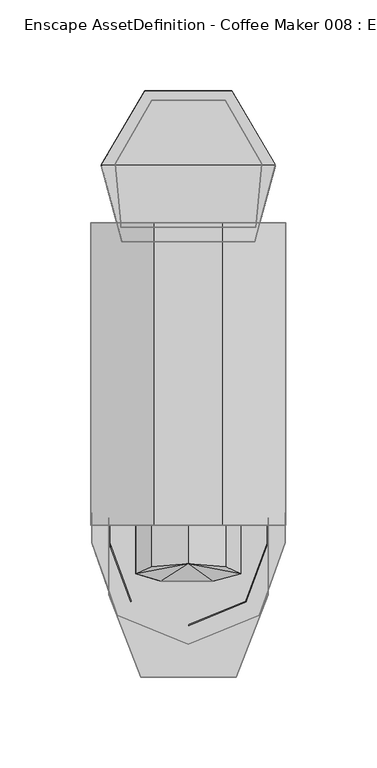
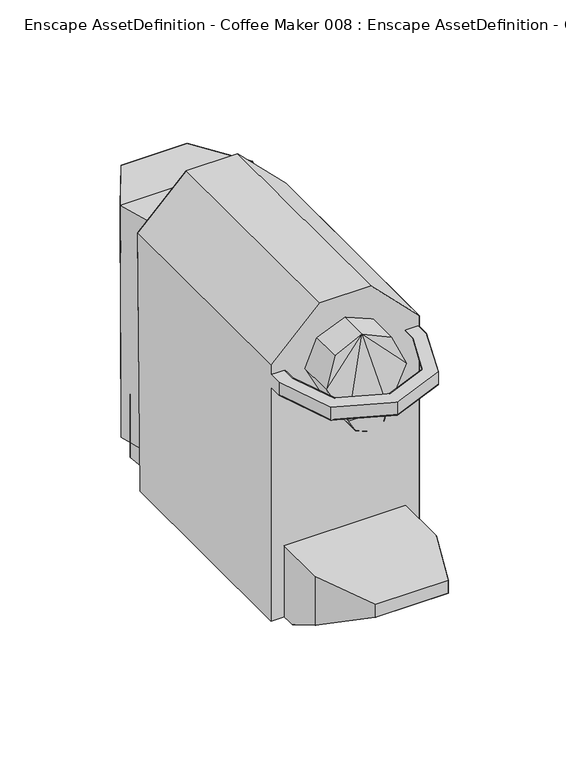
"""IFC4 building model written with IfcOpenShell, lengths in millimetres: geographic element geometry, Enscape AssetDefinition - Coffee Maker 008 : Enscape AssetDefinition - Coffee Maker 008."""

from ifc_helpers import new_model, si_unit, origin, place, context, project, spatial, triangles, source, transform, mapped, element, save


def enscape_assetdefinition_coffee_maker_008_enscape_c59bbcd4(model_context):
    return source(origin(), model_context, "Body", "Tessellation", [
        triangles([(-37.2600735, 90.3917664, -0.112668), (-20.3035436, 160.3692447, -0.112668), (40.2991935, 125.3800286, -0.112668), (37.0531912, 90.3917664, -0.112668), (-37.2600735, 90.3917664, 19.9286323), (37.0531912, 90.3917664, 19.9286323), (-40.5051039, 125.3800286, -0.112668), (20.0976332, 160.3692447, -0.112668), (-40.5051039, 125.3800286, 19.9286323), (-20.3035436, 160.3692447, 19.9286323), (20.0976332, 160.3692447, 19.9286323), (40.2991935, 125.3800286, 19.9286323), (36.5539575, 82.4826652, 18.5435935), (47.82561, 123.9911054, 18.5435935), (-48.0324924, 123.9911054, 18.5435935), (-36.7608376, 82.4826652, 18.5435935), (-36.7608376, 82.4826652, 196.3219738), (-24.0682075, 162.5555938, 18.5435935), (23.8613274, 162.5555938, 18.5435935), (-24.0682075, 165.4985646, 193.126493), (-48.0324924, 124.8837017, 195.4284237), (36.5539575, 82.4826652, 196.3219738), (23.8613274, 165.4985646, 193.126493), (47.82561, 124.8837017, 195.4284237), (-53.884429, -73.9490337, -0.0165117), (-53.884429, 92.866579, 196.0471178), (-53.884429, 89.9012622, -0.0165117), (53.5483621, 89.9012622, -0.0165117), (53.5483621, -73.9490337, -0.0165117), (53.5483621, -73.9490337, 196.0471178), (-18.803894, 92.866579, 231.1286247), (-53.884429, -73.9490337, 196.0471178), (18.467834, 92.866579, 231.1286247), (53.5483621, 92.866579, 196.0471178), (18.467834, -73.9490337, 231.1286247), (-18.803894, -73.9490337, 231.1286247), (-44.052203, -112.0686863, 16.7467328), (-26.3545914, -157.5379858, 44.3231894), (-26.3545914, -157.5379858, 54.2797355), (26.148681, -157.5379858, 54.2797355), (26.148681, -157.5379858, 44.3231894), (43.8453206, -84.2426141, 0.3719986), (43.8453206, -112.0686863, 16.7467328), (43.8453206, -112.0686863, 54.2797355), (43.8453206, -69.7307864, -0.331205), (-44.052203, -84.2426141, 0.3719986), (-44.052203, -69.7307864, -0.331205), (-44.052203, -112.0686863, 54.2797355), (-44.052203, -69.7307864, 54.2797355), (43.8453206, -69.7307864, 54.2797355), (38.9539768, -123.3014945, 188.3303287), (38.9539768, -123.3014945, 178.4301335), (53.16471, -83.3354475, 178.4301335), (31.3760872, -115.7245678, 188.3303287), (-0.1029552, -139.479059, 178.4301335), (-0.1029552, -139.479059, 188.3303287), (-0.1029552, -128.7629798, 188.3303287), (-39.1598872, -123.3014945, 188.3303287), (-31.5819976, -115.7245678, 188.3303287), (-39.1598872, -123.3014945, 178.4301335), (-53.4094716, -83.366532, 188.3303287), (-43.5121742, -83.6073967, 188.3303287), (-53.4094716, -66.9160327, 178.4301335), (-43.5121742, -67.1569019, 188.3303287), (-53.4094716, -66.9160327, 188.3303287), (-53.4094716, -83.366532, 178.4301335), (43.2674126, -83.6394532, 188.3303287), (53.16471, -83.3354475, 188.3303287), (53.16471, -66.8839807, 178.4301335), (53.16471, -66.8839807, 188.3303287), (43.2674126, -67.1879865, 188.3303287), (20.3802763, -69.0402081, 205.0207343), (28.8653393, -69.0402081, 184.5375006), (13.1811801, -104.6277434, 157.9954433), (-0.1029552, -69.0402081, 213.5058087), (20.3802763, -96.6040416, 205.0207343), (28.8653393, -100.6115187, 184.5375006), (-20.5861844, -96.6040416, 205.0207343), (-0.1029552, -95.0606856, 213.5058087), (-29.0712497, -100.6115187, 184.5375006), (-20.5861844, -69.0402081, 205.0207343), (-29.0712497, -69.0402081, 184.5375006), (-15.4374537, -104.6277434, 157.9954433), (-15.4374537, -69.0402081, 157.9954433), (-10.3450558, -69.0402081, 149.0548735), (-10.3450558, -104.6277434, 149.0548735), (-0.1029552, -104.6277434, 144.8132992), (-0.1029552, -69.0402081, 144.8132992), (10.1391454, -104.6277434, 149.0548735), (10.1391454, -69.0402081, 149.0548735), (13.1811801, -69.0402081, 157.9954433)], [[90, 91, 74], [74, 89, 90], [74, 87, 89], [87, 88, 90], [90, 89, 87], [86, 85, 88], [88, 87, 86], [84, 85, 86], [83, 86, 87], [86, 83, 84], [74, 83, 87], [80, 82, 84], [84, 83, 80], [81, 82, 80], [80, 78, 81], [75, 81, 78], [83, 74, 79], [80, 83, 79], [78, 80, 79], [78, 79, 75], [74, 77, 79], [77, 76, 79], [79, 76, 72], [72, 75, 79], [74, 91, 73], [73, 77, 74], [76, 77, 73], [73, 72, 76], [69, 53, 67], [67, 71, 69], [70, 71, 67], [69, 70, 68], [68, 53, 69], [67, 68, 70], [65, 63, 66], [63, 64, 62], [62, 66, 63], [66, 61, 65], [64, 65, 61], [61, 62, 64], [58, 61, 66], [60, 66, 62], [66, 60, 58], [62, 59, 60], [59, 62, 61], [61, 58, 59], [57, 59, 58], [56, 58, 60], [58, 56, 57], [59, 57, 55], [55, 60, 59], [60, 55, 56], [52, 55, 57], [52, 53, 68], [57, 54, 52], [54, 57, 56], [54, 67, 53], [53, 52, 54], [51, 56, 55], [55, 52, 51], [56, 51, 54], [68, 51, 52], [67, 54, 51], [51, 68, 67], [50, 49, 48], [37, 48, 49], [37, 49, 46], [49, 47, 46], [42, 46, 47], [47, 45, 42], [37, 46, 42], [48, 44, 50], [44, 45, 50], [44, 42, 45], [44, 48, 39], [39, 48, 37], [39, 40, 44], [44, 40, 41], [42, 43, 37], [44, 43, 42], [41, 43, 44], [40, 39, 38], [38, 41, 40], [37, 38, 39], [43, 41, 38], [38, 37, 43], [33, 31, 36], [36, 35, 33], [34, 33, 35], [31, 33, 34], [34, 26, 31], [32, 36, 31], [31, 26, 32], [35, 36, 32], [35, 30, 34], [32, 30, 35], [34, 30, 29], [26, 34, 28], [29, 28, 34], [32, 26, 27], [28, 27, 26], [27, 25, 32], [30, 32, 25], [25, 29, 30], [28, 29, 25], [25, 27, 28], [20, 23, 19], [14, 19, 23], [23, 24, 14], [13, 14, 24], [24, 22, 13], [17, 22, 24], [21, 24, 23], [23, 20, 21], [24, 21, 17], [21, 20, 18], [19, 18, 20], [18, 19, 14], [17, 21, 15], [18, 15, 21], [22, 17, 16], [16, 13, 22], [15, 16, 17], [13, 16, 14], [16, 18, 14], [16, 15, 18], [12, 6, 4], [4, 3, 12], [11, 12, 3], [10, 11, 8], [3, 8, 11], [9, 10, 2], [8, 2, 10], [2, 8, 3], [5, 9, 7], [2, 7, 9], [6, 5, 1], [1, 4, 6], [7, 1, 5], [4, 1, 3], [1, 2, 3], [1, 7, 2]], closed=False),
    ])


if __name__ == "__main__":
    model = new_model("IFC4")
    model_context = context("Model", 3, world=origin())
    ifc_project = project(units=[si_unit("LENGTHUNIT", "METRE", prefix="MILLI")], contexts=[model_context])
    site = spatial("IfcSite", under=ifc_project)
    building = spatial("IfcBuilding", under=site)
    placement = place(None, origin())
    enscape_assetdefinition_coffee_maker_008_enscape_shape = enscape_assetdefinition_coffee_maker_008_enscape_c59bbcd4(model_context)
    element("IfcGeographicElement", 1, ObjectType="Enscape AssetDefinition - Coffee Maker 008 : Enscape AssetDefinition - Coffee Maker 008", at=placement, inside=building, context=model_context, shape_type="MappedRepresentation", body=[
        mapped(enscape_assetdefinition_coffee_maker_008_enscape_shape, transform((0.0, 0.0, 0.0), x_axis=(1.0, 0.0, 0.0), y_axis=(0.0, 1.0, 0.0), z_axis=(0.0, 0.0, 1.0))),
    ])
    save(model, "model.ifc")
